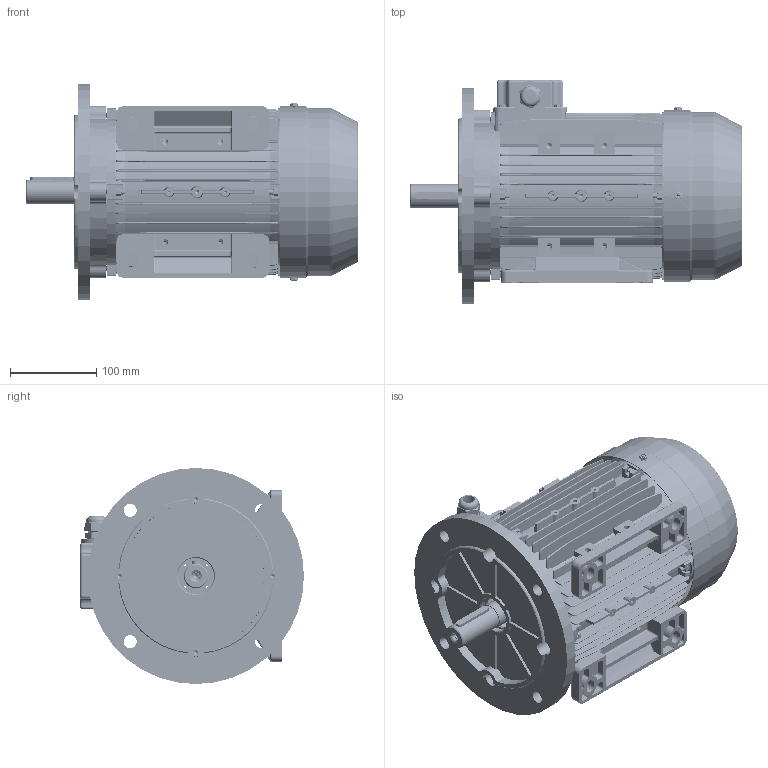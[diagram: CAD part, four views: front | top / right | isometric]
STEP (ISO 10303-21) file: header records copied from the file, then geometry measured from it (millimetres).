
FILE_DESCRIPTION (( 'STEP AP203' ), '1' );
FILE_NAME ('MSL100L assembly B35.STEP', '2017-11-26T09:49:44', ( 'user' ), ( 'china' ), 'SwSTEP 2.0', 'SolidWorks 2016', '' );
FILE_SCHEMA (( 'CONFIG_CONTROL_DESIGN' ));
Length unit declared in the file: millimetre
Products named in the file (16): M100-Shaft drive end; GB-T 29.2-1988 M5鞠褒坋趼湍菜_08; GB-T 70.1-2000 M6_34; M20 cable gland; GB-T 5780-2000 M6_035; M100瑞欶_090; MSL100L assembly B35; MSL80-90堤盄碟_MSL80-90; M100儂褲_M100L; MS100 綴裔瑞欶郪磁_90; GB-T 29.2-1988 M4鞠褒坋趼湍菜_05; M100傷裔B5; GB-T 41-2000 M6; MSL80-90堤盄碟蚾饜; M100傷裔_NonDriveEnd; M100菁褐
Assembly tree (34 placements, depth 3):
  MSL100L assembly B35
    M100儂褲_M100L
    M100菁褐  x2
    M100-Shaft drive end
    MS100 綴裔瑞欶郪磁_90
      M100傷裔_NonDriveEnd
      M100瑞欶_090
      GB-T 29.2-1988 M5鞠褒坋趼湍菜_08  x3
    GB-T 41-2000 M6  x8
    GB-T 70.1-2000 M6_34  x4
    GB-T 5780-2000 M6_035  x4
    MSL80-90堤盄碟蚾饜
      MSL80-90堤盄碟_MSL80-90
      GB-T 29.2-1988 M4鞠褒坋趼湍菜_05  x4
      M20 cable gland
    M100傷裔B5
Bounding box: 384 x 259 x 250 mm (x, y, z)
Volume: 1896575.9 mm3; surface area: 1007175.6 mm2
Topology: 32 solids, 32 shells, 5472 faces, 14106 edges, 8736 vertices
Faces by surface type: plane 2039, cylinder 1573, cone 1082, bspline 560, torus 206, sphere 12
Entity records: 158780 total; most frequent: CARTESIAN_POINT 63605, ORIENTED_EDGE 20530, DIRECTION 17899, EDGE_CURVE 10265, VERTEX_POINT 6522, AXIS2_PLACEMENT_3D 6258, VECTOR 5383, LINE 5383
